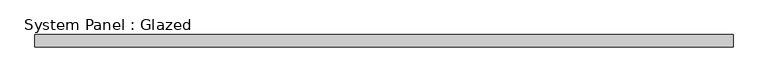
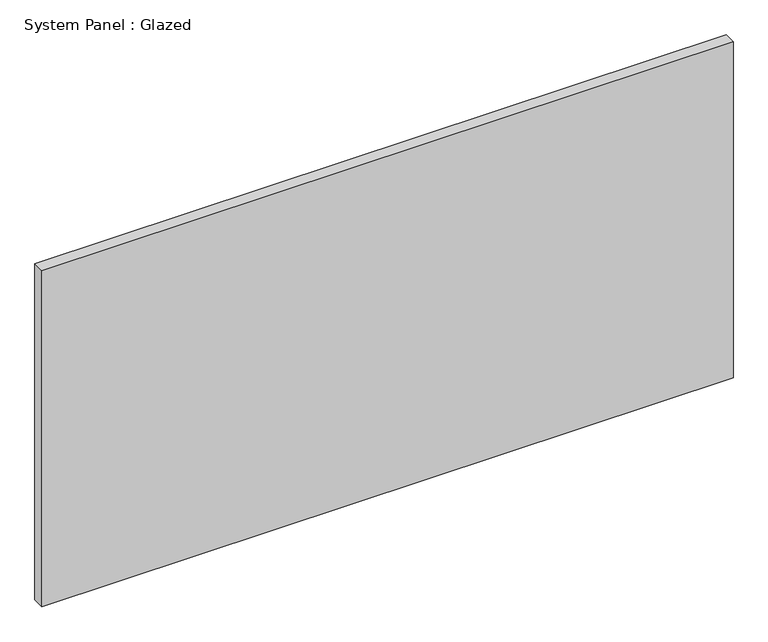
"""IFC4 building model written with IfcOpenShell, lengths in millimetres: plate geometry, System Panel : Glazed."""

from ifc_helpers import new_model, si_unit, origin, origin_with_axes, place, context, project, spatial, polyline, outline, extrude, source, transform, mapped, element, save


def system_panel_glazed_1981755d(model_context):
    return source(origin(), model_context, "Body", "SweptSolid", [
        extrude(outline(polyline([(705.5555556, -49.5), (-705.5555556, -49.5), (-705.5555556, -24.5), (705.5555556, -24.5), (705.5555556, -49.5)])), origin_with_axes(), (0.0, 0.0, 1.0), 725.0),
    ])


if __name__ == "__main__":
    model = new_model("IFC4")
    model_context = context("Model", 3, world=origin())
    ifc_project = project(units=[si_unit("LENGTHUNIT", "METRE", prefix="MILLI")], contexts=[model_context])
    site = spatial("IfcSite", under=ifc_project)
    building = spatial("IfcBuilding", under=site)
    placement = place(None, origin())
    system_panel_glazed_shape = system_panel_glazed_1981755d(model_context)
    element("IfcPlate", 1, ObjectType="System Panel : Glazed", at=placement, inside=building, context=model_context, shape_type="MappedRepresentation", body=[
        mapped(system_panel_glazed_shape, transform((0.0, 0.0, 0.0), x_axis=(1.0, 0.0, 0.0), y_axis=(0.0, 1.0, 0.0), z_axis=(0.0, 0.0, 1.0))),
    ])
    save(model, "model.ifc")
